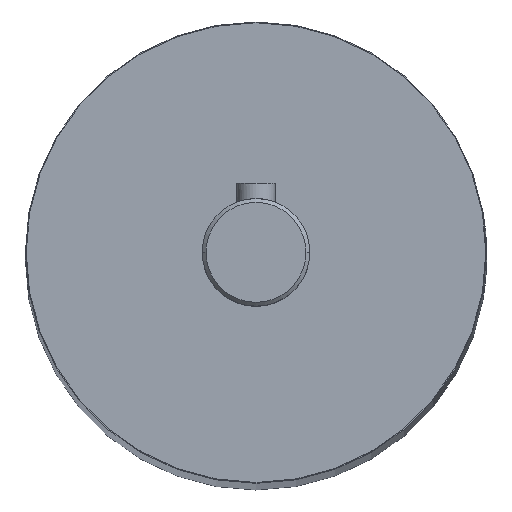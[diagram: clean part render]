
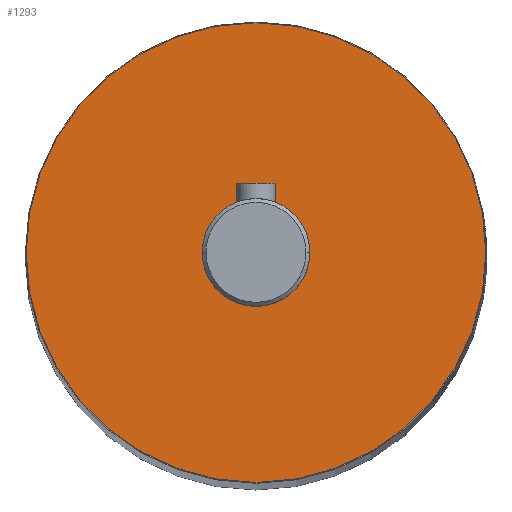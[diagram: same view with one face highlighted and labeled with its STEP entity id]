
A CAD part, top view. The second image highlights one B-rep face of the part: STEP entity #1293.
In plain terms, the highlighted planar face has unit normal (0, 0, 1).
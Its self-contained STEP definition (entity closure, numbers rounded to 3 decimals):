
#24 = CARTESIAN_POINT ( 'NONE',  ( 29.9, 0., 252.5 ) ) ;
#141 = EDGE_LOOP ( 'NONE', ( #1417, #1275 ) ) ;
#152 = CIRCLE ( 'NONE', #658, 7. ) ;
#218 = AXIS2_PLACEMENT_3D ( 'NONE', #1875, #920, #953 ) ;
#278 = VERTEX_POINT ( 'NONE', #577 ) ;
#290 = DIRECTION ( 'NONE',  ( 0., 0., 1. ) ) ;
#334 = VERTEX_POINT ( 'NONE', #1833 ) ;
#472 = EDGE_LOOP ( 'NONE', ( #1489, #1205 ) ) ;
#495 = FACE_OUTER_BOUND ( 'NONE', #141, .T. ) ;
#577 = CARTESIAN_POINT ( 'NONE',  ( -7., 0., 252.5 ) ) ;
#580 = EDGE_CURVE ( 'NONE', #278, #1512, #674, .T. ) ;
#589 = DIRECTION ( 'NONE',  ( 1., 0., 0. ) ) ;
#590 = EDGE_CURVE ( 'NONE', #1512, #278, #152, .T. ) ;
#658 = AXIS2_PLACEMENT_3D ( 'NONE', #848, #1481, #1790 ) ;
#674 = CIRCLE ( 'NONE', #744, 7. ) ;
#744 = AXIS2_PLACEMENT_3D ( 'NONE', #1608, #1921, #832 ) ;
#832 = DIRECTION ( 'NONE',  ( 1., 0., 0. ) ) ;
#848 = CARTESIAN_POINT ( 'NONE',  ( 0., 0., 252.5 ) ) ;
#920 = DIRECTION ( 'NONE',  ( 0., 0., 1. ) ) ;
#953 = DIRECTION ( 'NONE',  ( 1., 0., 0. ) ) ;
#962 = PLANE ( 'NONE',  #218 ) ;
#1081 = FACE_BOUND ( 'NONE', #472, .T. ) ;
#1085 = AXIS2_PLACEMENT_3D ( 'NONE', #1654, #290, #589 ) ;
#1205 = ORIENTED_EDGE ( 'NONE', *, *, #590, .F. ) ;
#1264 = EDGE_CURVE ( 'NONE', #334, #1286, #1939, .T. ) ;
#1275 = ORIENTED_EDGE ( 'NONE', *, *, #1834, .T. ) ;
#1286 = VERTEX_POINT ( 'NONE', #24 ) ;
#1293 = ADVANCED_FACE ( 'NONE', ( #1081, #495 ), #962, .T. ) ;
#1417 = ORIENTED_EDGE ( 'NONE', *, *, #1264, .T. ) ;
#1437 = CIRCLE ( 'NONE', #1625, 29.9 ) ;
#1447 = CARTESIAN_POINT ( 'NONE',  ( 0., 0., 252.5 ) ) ;
#1481 = DIRECTION ( 'NONE',  ( 0., 0., 1. ) ) ;
#1489 = ORIENTED_EDGE ( 'NONE', *, *, #580, .F. ) ;
#1512 = VERTEX_POINT ( 'NONE', #1620 ) ;
#1576 = DIRECTION ( 'NONE',  ( 0., 0., 1. ) ) ;
#1608 = CARTESIAN_POINT ( 'NONE',  ( 0., 0., 252.5 ) ) ;
#1620 = CARTESIAN_POINT ( 'NONE',  ( 7., 0., 252.5 ) ) ;
#1625 = AXIS2_PLACEMENT_3D ( 'NONE', #1447, #1576, #1728 ) ;
#1654 = CARTESIAN_POINT ( 'NONE',  ( 0., 0., 252.5 ) ) ;
#1728 = DIRECTION ( 'NONE',  ( 1., 0., 0. ) ) ;
#1790 = DIRECTION ( 'NONE',  ( 1., 0., 0. ) ) ;
#1833 = CARTESIAN_POINT ( 'NONE',  ( -29.9, 0., 252.5 ) ) ;
#1834 = EDGE_CURVE ( 'NONE', #1286, #334, #1437, .T. ) ;
#1875 = CARTESIAN_POINT ( 'NONE',  ( 0., 0., 252.5 ) ) ;
#1921 = DIRECTION ( 'NONE',  ( 0., 0., 1. ) ) ;
#1939 = CIRCLE ( 'NONE', #1085, 29.9 ) ;
